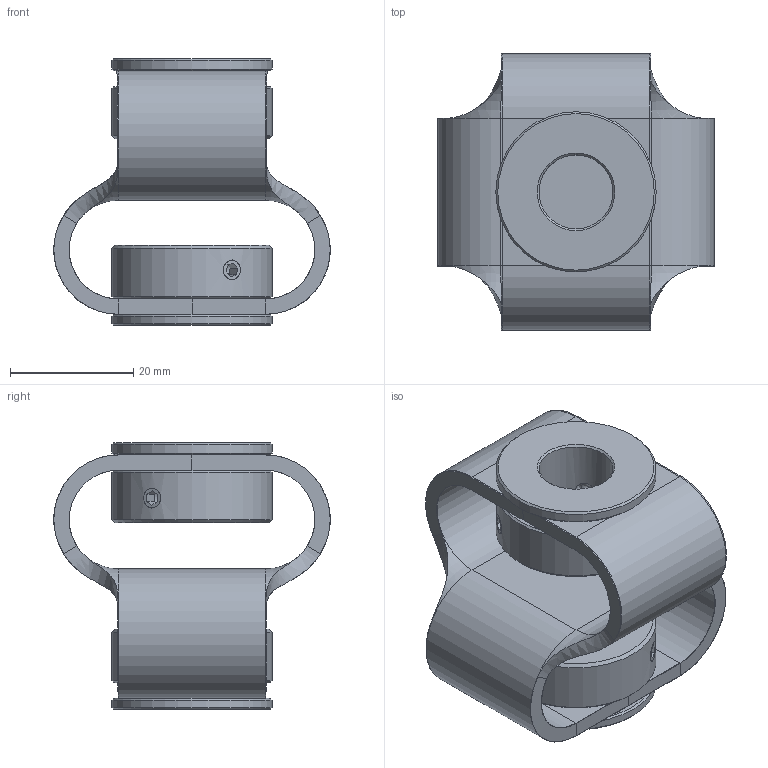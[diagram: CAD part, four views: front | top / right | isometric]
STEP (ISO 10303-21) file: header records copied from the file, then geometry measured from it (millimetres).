
FILE_DESCRIPTION(/* description */ ('Stern '),/* implementation_level */ '2;1');
FILE_NAME(/* name */ 'Z:\ABP-Antriebstechnik\Entwicklung-3D\Paguflex\DKPSF\DKPSF4848 10 12.stp',/* time_stamp */ '2024-03-11T14:44:42+01:00',/* author */ ('christian.fehrenbach'),/* organization */ (''),/* preprocessor_version */ 'ST-DEVELOPER v16.1',/* originating_system */ 'Autodesk Inventor 2016',/* authorisation */ '');
FILE_SCHEMA (('AUTOMOTIVE_DESIGN { 1 0 10303 214 3 1 1 }'));
Length unit declared in the file: millimetre
Products named in the file (5): Stern 4848 gebogen; Schraubnabe 2513 10; Schraubnabe 2513 12; M4-6; DKPSF4848 10 12
Assembly tree (7 placements, depth 2):
  DKPSF4848 10 12
    Stern 4848 gebogen
    Schraubnabe 2513 10
    Schraubnabe 2513 12
    M4-6  x4
Bounding box: 44.87 x 44.87 x 43.3 mm (x, y, z)
Volume: 20001.1 mm3; surface area: 15664.3 mm2
Topology: 7 solids, 11 shells, 174 faces, 368 edges, 206 vertices
Faces by surface type: plane 84, cylinder 45, cone 32, torus 9, bspline 4
Full cylindrical faces by diameter (mm): 3.242 x4, 4 x4, 10 x1, 12 x1, 16.5 x1, 18 x2, 26 x4
Entity records: 3634 total; most frequent: CARTESIAN_POINT 1000, DIRECTION 562, ORIENTED_EDGE 464, AXIS2_PLACEMENT_3D 234, EDGE_CURVE 220, EDGE_LOOP 168, VERTEX_POINT 140, FACE_OUTER_BOUND 120
